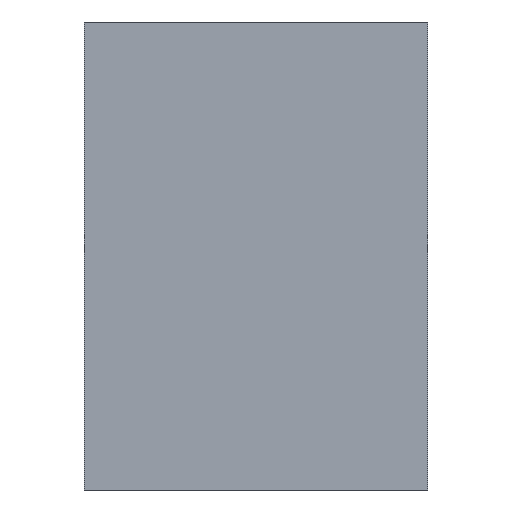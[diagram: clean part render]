
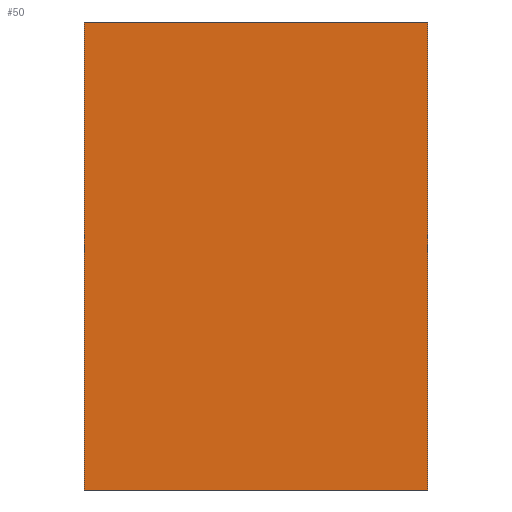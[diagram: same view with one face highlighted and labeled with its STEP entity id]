
A CAD part, left-side view. The second image highlights one B-rep face of the part: STEP entity #50.
In plain terms, the highlighted planar face has unit normal (-1, 0, 0).
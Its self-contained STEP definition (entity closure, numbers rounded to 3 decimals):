
#50=ADVANCED_FACE('',(#69),#217,.T.);
#69=FACE_OUTER_BOUND('',#96,.F.);
#96=EDGE_LOOP('',(#156,#157,#158,#159));
#156=ORIENTED_EDGE('',*,*,#279,.F.);
#157=ORIENTED_EDGE('',*,*,#287,.F.);
#158=ORIENTED_EDGE('',*,*,#283,.T.);
#159=ORIENTED_EDGE('',*,*,#286,.T.);
#217=PLANE('',#423);
#279=EDGE_CURVE('',#365,#366,#310,.T.);
#283=EDGE_CURVE('',#362,#363,#314,.T.);
#286=EDGE_CURVE('',#363,#366,#317,.T.);
#287=EDGE_CURVE('',#362,#365,#318,.T.);
#310=LINE('',#616,#341);
#314=LINE('',#620,#345);
#317=LINE('',#623,#348);
#318=LINE('',#624,#349);
#341=VECTOR('',#490,44.3);
#345=VECTOR('',#494,44.3);
#348=VECTOR('',#497,32.5);
#349=VECTOR('',#498,32.5);
#362=VERTEX_POINT('',#552);
#363=VERTEX_POINT('',#553);
#365=VERTEX_POINT('',#555);
#366=VERTEX_POINT('',#556);
#423=AXIS2_PLACEMENT_3D('',#642,#521,#522);
#490=DIRECTION('',(0.,0.,1.));
#494=DIRECTION('',(0.,0.,1.));
#497=DIRECTION('',(0.,-1.,0.));
#498=DIRECTION('',(0.,-1.,0.));
#521=DIRECTION('',(-1.,0.,0.));
#522=DIRECTION('',(0.,0.,1.));
#552=CARTESIAN_POINT('',(942.675,601.316,411.389));
#553=CARTESIAN_POINT('',(942.675,601.316,455.689));
#555=CARTESIAN_POINT('',(942.675,568.816,411.389));
#556=CARTESIAN_POINT('',(942.675,568.816,455.689));
#616=CARTESIAN_POINT('',(942.675,568.816,411.389));
#620=CARTESIAN_POINT('',(942.675,601.316,411.389));
#623=CARTESIAN_POINT('',(942.675,601.316,455.689));
#624=CARTESIAN_POINT('',(942.675,601.316,411.389));
#642=CARTESIAN_POINT('',(942.675,568.373,410.946));
